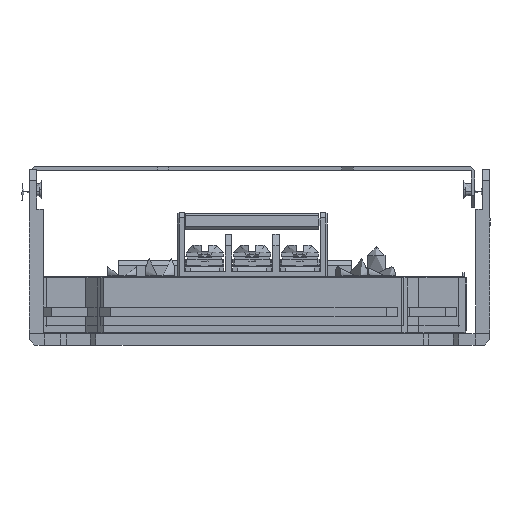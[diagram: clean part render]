
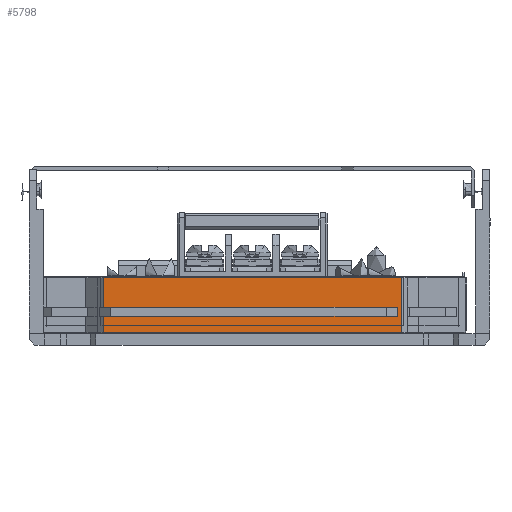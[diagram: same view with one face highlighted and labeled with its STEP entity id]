
A CAD part, front view. The second image highlights one B-rep face of the part: STEP entity #5798.
In plain terms, the highlighted planar face has unit normal (0, -1, 0).
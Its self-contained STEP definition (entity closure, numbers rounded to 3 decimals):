
#5798=ADVANCED_FACE('',(#11131),#95927,.T.);
#11131=FACE_OUTER_BOUND('',#17856,.T.);
#17856=EDGE_LOOP('',(#42684,#42685,#42686,#42687));
#42684=ORIENTED_EDGE('',*,*,#61924,.T.);
#42685=ORIENTED_EDGE('',*,*,#61925,.T.);
#42686=ORIENTED_EDGE('',*,*,#61926,.T.);
#42687=ORIENTED_EDGE('',*,*,#61922,.F.);
#61922=EDGE_CURVE('',#88925,#88926,#78336,.T.);
#61924=EDGE_CURVE('',#88925,#88927,#78337,.T.);
#61925=EDGE_CURVE('',#88927,#88928,#78338,.T.);
#61926=EDGE_CURVE('',#88928,#88926,#78339,.T.);
#78336=B_SPLINE_CURVE_WITH_KNOTS('',1,(#151857,#151858),.UNSPECIFIED.,.F.,
 .F.,(2,2),(0.,9.5),.UNSPECIFIED.);
#78337=B_SPLINE_CURVE_WITH_KNOTS('',1,(#151862,#151863),.UNSPECIFIED.,.F.,
 .F.,(2,2),(0.,51.8),.UNSPECIFIED.);
#78338=B_SPLINE_CURVE_WITH_KNOTS('',1,(#151864,#151865),.UNSPECIFIED.,.F.,
 .F.,(2,2),(0.,9.5),.UNSPECIFIED.);
#78339=B_SPLINE_CURVE_WITH_KNOTS('',1,(#151866,#151867),.UNSPECIFIED.,.F.,
 .F.,(2,2),(0.,51.8),.UNSPECIFIED.);
#88925=VERTEX_POINT('',#151677);
#88926=VERTEX_POINT('',#151678);
#88927=VERTEX_POINT('',#151679);
#88928=VERTEX_POINT('',#151680);
#95927=PLANE('',#100014);
#100014=AXIS2_PLACEMENT_3D('',#150209,#104067,$);
#104067=DIRECTION('',(0.,-1.,0.));
#150209=CARTESIAN_POINT('',(-61.581,-0.1,12.651));
#151677=CARTESIAN_POINT('',(-56.4,-0.1,2.2));
#151678=CARTESIAN_POINT('',(-56.4,-0.1,11.7));
#151679=CARTESIAN_POINT('',(-4.6,-0.1,2.2));
#151680=CARTESIAN_POINT('',(-4.6,-0.1,11.7));
#151857=CARTESIAN_POINT('',(-56.4,-0.1,2.2));
#151858=CARTESIAN_POINT('',(-56.4,-0.1,11.7));
#151862=CARTESIAN_POINT('',(-56.4,-0.1,2.2));
#151863=CARTESIAN_POINT('',(-4.6,-0.1,2.2));
#151864=CARTESIAN_POINT('',(-4.6,-0.1,2.2));
#151865=CARTESIAN_POINT('',(-4.6,-0.1,11.7));
#151866=CARTESIAN_POINT('',(-4.6,-0.1,11.7));
#151867=CARTESIAN_POINT('',(-56.4,-0.1,11.7));
